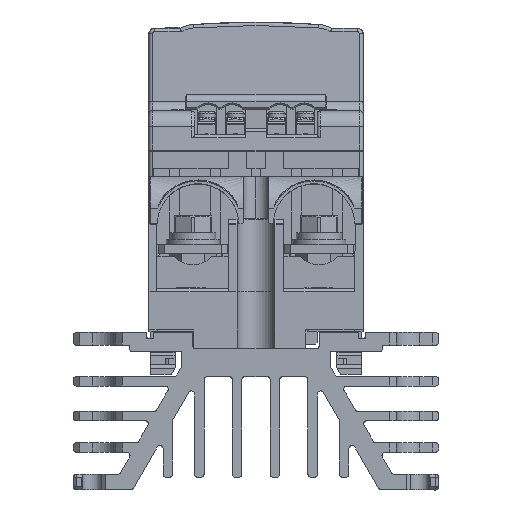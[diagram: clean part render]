
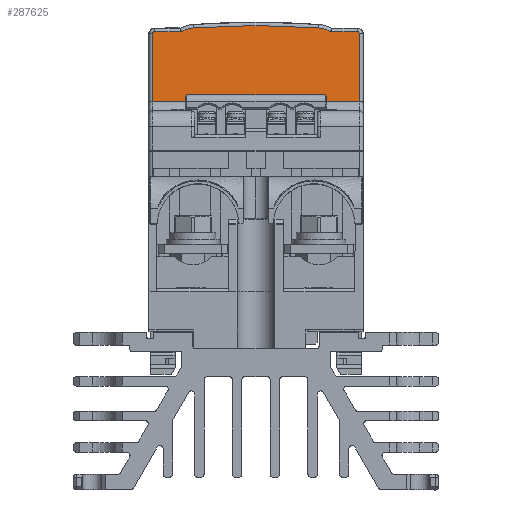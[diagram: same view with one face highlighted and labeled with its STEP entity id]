
A CAD part, front view. The second image highlights one B-rep face of the part: STEP entity #287625.
In plain terms, the highlighted planar face has unit normal (0, -0.998, 0.07).
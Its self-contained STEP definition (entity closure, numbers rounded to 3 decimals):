
#15101 = VECTOR ( 'NONE', #237603, 1000. ) ;
#21618 = CARTESIAN_POINT ( 'NONE',  ( 6.613, 20.066, 97.687 ) ) ;
#24586 = CARTESIAN_POINT ( 'NONE',  ( -19.801, 19.995, 96.675 ) ) ;
#25600 = VERTEX_POINT ( 'NONE', #32296 ) ;
#28065 = DIRECTION ( 'NONE',  ( 1., 0., 0. ) ) ;
#31942 = CARTESIAN_POINT ( 'NONE',  ( 32.8, 19.891, 95.185 ) ) ;
#32296 = CARTESIAN_POINT ( 'NONE',  ( 32.2, 19.909, 95.434 ) ) ;
#33213 =( BOUNDED_CURVE ( )  B_SPLINE_CURVE ( 3, ( #167802, #240590, #31942, #216670 ),
 .UNSPECIFIED., .F., .F. ) 
 B_SPLINE_CURVE_WITH_KNOTS ( ( 4, 4 ),
 ( 3.142, 4.712 ),
 .UNSPECIFIED. ) 
 CURVE ( )  GEOMETRIC_REPRESENTATION_ITEM ( )  RATIONAL_B_SPLINE_CURVE ( ( 1., 0.805, 0.805, 1. ) ) 
 REPRESENTATION_ITEM ( '' )  );
#34906 = VERTEX_POINT ( 'NONE', #156680 ) ;
#38036 = ORIENTED_EDGE ( 'NONE', *, *, #211714, .T. ) ;
#39097 = VERTEX_POINT ( 'NONE', #228261 ) ;
#39340 = CARTESIAN_POINT ( 'NONE',  ( 19.801, 19.995, 96.675 ) ) ;
#40597 = CARTESIAN_POINT ( 'NONE',  ( 32.8, 19.867, 94.834 ) ) ;
#42907 = DIRECTION ( 'NONE',  ( 0., 0.07, 0.998 ) ) ;
#53254 = EDGE_CURVE ( 'NONE', #123993, #130411, #82942, .T. ) ;
#53887 = VERTEX_POINT ( 'NONE', #39340 ) ;
#54904 = CARTESIAN_POINT ( 'NONE',  ( 32.8, 20.2, 99.6 ) ) ;
#55325 = LINE ( 'NONE', #54904, #158793 ) ;
#55520 = CARTESIAN_POINT ( 'NONE',  ( -34., 19.909, 95.434 ) ) ;
#59091 = ORIENTED_EDGE ( 'NONE', *, *, #66937, .T. ) ;
#60473 = CARTESIAN_POINT ( 'NONE',  ( -32.8, 19.867, 94.834 ) ) ;
#62926 = LINE ( 'NONE', #253247, #255738 ) ;
#66089 =( BOUNDED_CURVE ( )  B_SPLINE_CURVE ( 3, ( #179476, #21618, #90531, #294247 ),
 .UNSPECIFIED., .F., .F. ) 
 B_SPLINE_CURVE_WITH_KNOTS ( ( 4, 4 ),
 ( 6.207, 6.36 ),
 .UNSPECIFIED. ) 
 CURVE ( )  GEOMETRIC_REPRESENTATION_ITEM ( )  RATIONAL_B_SPLINE_CURVE ( ( 1., 0.998, 0.998, 1. ) ) 
 REPRESENTATION_ITEM ( '' )  );
#66508 = DIRECTION ( 'NONE',  ( -1., 0., 0. ) ) ;
#66937 = EDGE_CURVE ( 'NONE', #25600, #34906, #62926, .T. ) ;
#70447 = CARTESIAN_POINT ( 'NONE',  ( -21.179, 19.988, 96.569 ) ) ;
#73058 = LINE ( 'NONE', #55520, #262426 ) ;
#76970 = VECTOR ( 'NONE', #28065, 1000. ) ;
#77327 = EDGE_CURVE ( 'NONE', #53887, #226064, #66089, .T. ) ;
#81516 = EDGE_CURVE ( 'NONE', #226064, #293487, #151989, .T. ) ;
#81748 = CARTESIAN_POINT ( 'NONE',  ( -32.8, 20.2, 99.6 ) ) ;
#82486 = CARTESIAN_POINT ( 'NONE',  ( 21.179, 19.988, 96.569 ) ) ;
#82942 = LINE ( 'NONE', #81748, #15101 ) ;
#83452 = CARTESIAN_POINT ( 'NONE',  ( -32.8, 19.891, 95.185 ) ) ;
#90531 = CARTESIAN_POINT ( 'NONE',  ( -6.613, 20.066, 97.687 ) ) ;
#100926 = DIRECTION ( 'NONE',  ( 0., 0.07, 0.998 ) ) ;
#113569 = CARTESIAN_POINT ( 'NONE',  ( -32.8, 18.353, 73.191 ) ) ;
#114649 = CARTESIAN_POINT ( 'NONE',  ( -19.801, 19.995, 96.675 ) ) ;
#117546 = CARTESIAN_POINT ( 'NONE',  ( -23.677, 19.909, 95.434 ) ) ;
#122857 = EDGE_CURVE ( 'NONE', #130411, #254557, #205751, .T. ) ;
#123993 = VERTEX_POINT ( 'NONE', #148920 ) ;
#124573 = VERTEX_POINT ( 'NONE', #40597 ) ;
#125708 = EDGE_CURVE ( 'NONE', #25600, #124573, #33213, .T. ) ;
#129519 = ORIENTED_EDGE ( 'NONE', *, *, #81516, .T. ) ;
#130411 = VERTEX_POINT ( 'NONE', #113569 ) ;
#141900 = CARTESIAN_POINT ( 'NONE',  ( 34., 18.353, 73.191 ) ) ;
#143361 = EDGE_CURVE ( 'NONE', #293487, #39097, #73058, .T. ) ;
#148110 = ORIENTED_EDGE ( 'NONE', *, *, #143361, .T. ) ;
#148920 = CARTESIAN_POINT ( 'NONE',  ( -32.8, 19.867, 94.834 ) ) ;
#151989 =( BOUNDED_CURVE ( )  B_SPLINE_CURVE ( 3, ( #24586, #70447, #254148, #117546 ),
 .UNSPECIFIED., .F., .F. ) 
 B_SPLINE_CURVE_WITH_KNOTS ( ( 4, 4 ),
 ( 0.077, 0.543 ),
 .UNSPECIFIED. ) 
 CURVE ( )  GEOMETRIC_REPRESENTATION_ITEM ( )  RATIONAL_B_SPLINE_CURVE ( ( 1., 0.982, 0.982, 1. ) ) 
 REPRESENTATION_ITEM ( '' )  );
#153763 =( BOUNDED_CURVE ( )  B_SPLINE_CURVE ( 3, ( #219354, #262166, #82486, #196413 ),
 .UNSPECIFIED., .F., .F. ) 
 B_SPLINE_CURVE_WITH_KNOTS ( ( 4, 4 ),
 ( 5.74, 6.207 ),
 .UNSPECIFIED. ) 
 CURVE ( )  GEOMETRIC_REPRESENTATION_ITEM ( )  RATIONAL_B_SPLINE_CURVE ( ( 1., 0.982, 0.982, 1. ) ) 
 REPRESENTATION_ITEM ( '' )  );
#156680 = CARTESIAN_POINT ( 'NONE',  ( 23.677, 19.909, 95.434 ) ) ;
#158793 = VECTOR ( 'NONE', #100926, 1000. ) ;
#166788 = ORIENTED_EDGE ( 'NONE', *, *, #53254, .T. ) ;
#167802 = CARTESIAN_POINT ( 'NONE',  ( 32.2, 19.909, 95.434 ) ) ;
#168355 = DIRECTION ( 'NONE',  ( -1., 0., 0. ) ) ;
#177171 = ORIENTED_EDGE ( 'NONE', *, *, #125708, .F. ) ;
#179302 = CARTESIAN_POINT ( 'NONE',  ( 32.8, 18.353, 73.191 ) ) ;
#179476 = CARTESIAN_POINT ( 'NONE',  ( 19.801, 19.995, 96.675 ) ) ;
#191897 = EDGE_LOOP ( 'NONE', ( #177171, #59091, #38036, #203094, #129519, #148110, #253359, #166788, #224030, #201934 ) ) ;
#196413 = CARTESIAN_POINT ( 'NONE',  ( 19.801, 19.995, 96.675 ) ) ;
#198676 = AXIS2_PLACEMENT_3D ( 'NONE', #228645, #296479, #42907 ) ;
#201934 = ORIENTED_EDGE ( 'NONE', *, *, #278135, .T. ) ;
#203094 = ORIENTED_EDGE ( 'NONE', *, *, #77327, .T. ) ;
#203167 = FACE_OUTER_BOUND ( 'NONE', #191897, .T. ) ;
#205751 = LINE ( 'NONE', #141900, #76970 ) ;
#211714 = EDGE_CURVE ( 'NONE', #34906, #53887, #153763, .T. ) ;
#216670 = CARTESIAN_POINT ( 'NONE',  ( 32.8, 19.867, 94.834 ) ) ;
#219354 = CARTESIAN_POINT ( 'NONE',  ( 23.677, 19.909, 95.434 ) ) ;
#224030 = ORIENTED_EDGE ( 'NONE', *, *, #122857, .T. ) ;
#226064 = VERTEX_POINT ( 'NONE', #114649 ) ;
#228261 = CARTESIAN_POINT ( 'NONE',  ( -32.2, 19.909, 95.434 ) ) ;
#228645 = CARTESIAN_POINT ( 'NONE',  ( -34., 20.2, 99.6 ) ) ;
#233516 = EDGE_CURVE ( 'NONE', #123993, #39097, #256302, .T. ) ;
#237603 = DIRECTION ( 'NONE',  ( 0., -0.07, -0.998 ) ) ;
#240590 = CARTESIAN_POINT ( 'NONE',  ( 32.551, 19.909, 95.434 ) ) ;
#243231 = CARTESIAN_POINT ( 'NONE',  ( -32.551, 19.909, 95.434 ) ) ;
#248576 = PLANE ( 'NONE',  #198676 ) ;
#253247 = CARTESIAN_POINT ( 'NONE',  ( -34., 19.909, 95.434 ) ) ;
#253359 = ORIENTED_EDGE ( 'NONE', *, *, #233516, .F. ) ;
#254148 = CARTESIAN_POINT ( 'NONE',  ( -22.495, 19.959, 96.148 ) ) ;
#254557 = VERTEX_POINT ( 'NONE', #179302 ) ;
#255738 = VECTOR ( 'NONE', #66508, 1000. ) ;
#256302 =( BOUNDED_CURVE ( )  B_SPLINE_CURVE ( 3, ( #60473, #83452, #243231, #289073 ),
 .UNSPECIFIED., .F., .F. ) 
 B_SPLINE_CURVE_WITH_KNOTS ( ( 4, 4 ),
 ( 4.712, 6.283 ),
 .UNSPECIFIED. ) 
 CURVE ( )  GEOMETRIC_REPRESENTATION_ITEM ( )  RATIONAL_B_SPLINE_CURVE ( ( 1., 0.805, 0.805, 1. ) ) 
 REPRESENTATION_ITEM ( '' )  );
#262166 = CARTESIAN_POINT ( 'NONE',  ( 22.495, 19.959, 96.148 ) ) ;
#262426 = VECTOR ( 'NONE', #168355, 1000. ) ;
#274367 = CARTESIAN_POINT ( 'NONE',  ( -23.677, 19.909, 95.434 ) ) ;
#278135 = EDGE_CURVE ( 'NONE', #254557, #124573, #55325, .T. ) ;
#287625 = ADVANCED_FACE ( 'NONE', ( #203167 ), #248576, .F. ) ;
#289073 = CARTESIAN_POINT ( 'NONE',  ( -32.2, 19.909, 95.434 ) ) ;
#293487 = VERTEX_POINT ( 'NONE', #274367 ) ;
#294247 = CARTESIAN_POINT ( 'NONE',  ( -19.801, 19.995, 96.675 ) ) ;
#296479 = DIRECTION ( 'NONE',  ( 0., 0.998, -0.07 ) ) ;
